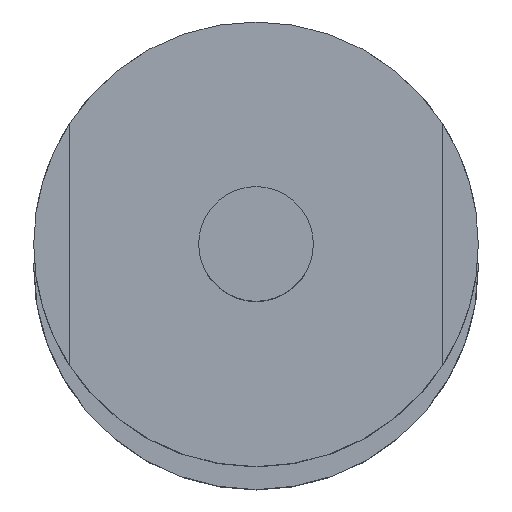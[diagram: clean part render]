
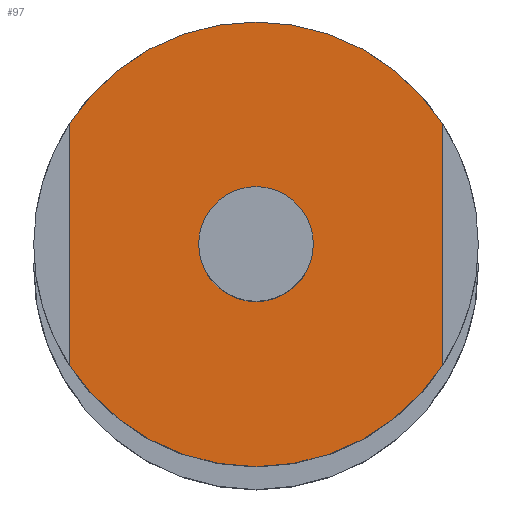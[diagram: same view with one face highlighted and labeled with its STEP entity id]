
A CAD part, top view. The second image highlights one B-rep face of the part: STEP entity #97.
In plain terms, the highlighted planar face has unit normal (0, 0, 1).
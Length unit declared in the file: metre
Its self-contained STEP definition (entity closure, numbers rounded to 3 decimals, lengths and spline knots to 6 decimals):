
#97=ADVANCED_FACE('0:66',(#196,#197),#198,.T.);
#196=FACE_OUTER_BOUND('',#314,.T.);
#197=FACE_BOUND('',#315,.T.);
#198=PLANE('',#316);
#314=EDGE_LOOP('',(#480,#481,#482,#483));
#315=EDGE_LOOP('',(#484,#485));
#316=AXIS2_PLACEMENT_3D('',#486,#487,#488);
#480=ORIENTED_EDGE('',*,*,#678,.T.);
#481=ORIENTED_EDGE('',*,*,#655,.F.);
#482=ORIENTED_EDGE('',*,*,#674,.F.);
#483=ORIENTED_EDGE('',*,*,#684,.F.);
#484=ORIENTED_EDGE('',*,*,#669,.T.);
#485=ORIENTED_EDGE('',*,*,#667,.T.);
#486=CARTESIAN_POINT('',(0.0,0.0,3.295));
#487=DIRECTION('',(0.0,0.0,1.0));
#488=DIRECTION('',(1.0,0.0,0.0));
#655=EDGE_CURVE('0:93',#782,#784,#785,.F.);
#667=EDGE_CURVE('',#800,#804,#806,.F.);
#669=EDGE_CURVE('0:81',#804,#800,#808,.F.);
#674=EDGE_CURVE('0:168',#813,#782,#815,.F.);
#678=EDGE_CURVE('0:174',#817,#784,#821,.T.);
#684=EDGE_CURVE('0:105',#817,#813,#827,.F.);
#782=VERTEX_POINT('',#961);
#784=VERTEX_POINT('',#964);
#785=CIRCLE('',#965,0.0155);
#800=VERTEX_POINT('',#983);
#804=VERTEX_POINT('',#988);
#806=CIRCLE('',#991,0.004);
#808=CIRCLE('',#993,0.004);
#813=VERTEX_POINT('',#999);
#815=LINE('',#1002,#1003);
#817=VERTEX_POINT('',#1005);
#821=LINE('',#1011,#1012);
#827=CIRCLE('',#1018,0.0155);
#961=CARTESIAN_POINT('',(-0.013092,0.008536,3.295));
#964=CARTESIAN_POINT('',(0.012908,0.008536,3.295));
#965=AXIS2_PLACEMENT_3D('',#1155,#1156,#1157);
#983=CARTESIAN_POINT('',(0.003908,0.000095,3.295));
#988=CARTESIAN_POINT('',(-0.004092,0.000095,3.295));
#991=AXIS2_PLACEMENT_3D('',#1175,#1176,#1177);
#993=AXIS2_PLACEMENT_3D('',#1178,#1179,#1180);
#999=CARTESIAN_POINT('',(-0.013092,-0.008346,3.295));
#1002=CARTESIAN_POINT('',(-0.013092,0.000048,3.295));
#1003=VECTOR('',#1186,1.0);
#1005=CARTESIAN_POINT('',(0.012908,-0.008346,3.295));
#1011=CARTESIAN_POINT('',(0.012908,0.000048,3.295));
#1012=VECTOR('',#1189,1.0);
#1018=AXIS2_PLACEMENT_3D('',#1199,#1200,#1201);
#1155=CARTESIAN_POINT('',(-0.000092,0.000095,3.295));
#1156=DIRECTION('',(0.0,0.0,1.0));
#1157=DIRECTION('',(1.0,0.0,0.0));
#1175=CARTESIAN_POINT('',(-0.000092,0.000095,3.295));
#1176=DIRECTION('',(0.0,0.0,1.0));
#1177=DIRECTION('',(1.0,0.0,0.0));
#1178=CARTESIAN_POINT('',(-0.000092,0.000095,3.295));
#1179=DIRECTION('',(0.0,0.0,1.0));
#1180=DIRECTION('',(1.0,0.0,0.0));
#1186=DIRECTION('',(0.,-1.0,0.0));
#1189=DIRECTION('',(0.,1.0,0.0));
#1199=CARTESIAN_POINT('',(-0.000092,0.000095,3.295));
#1200=DIRECTION('',(0.0,0.0,1.0));
#1201=DIRECTION('',(1.0,0.0,0.0));
